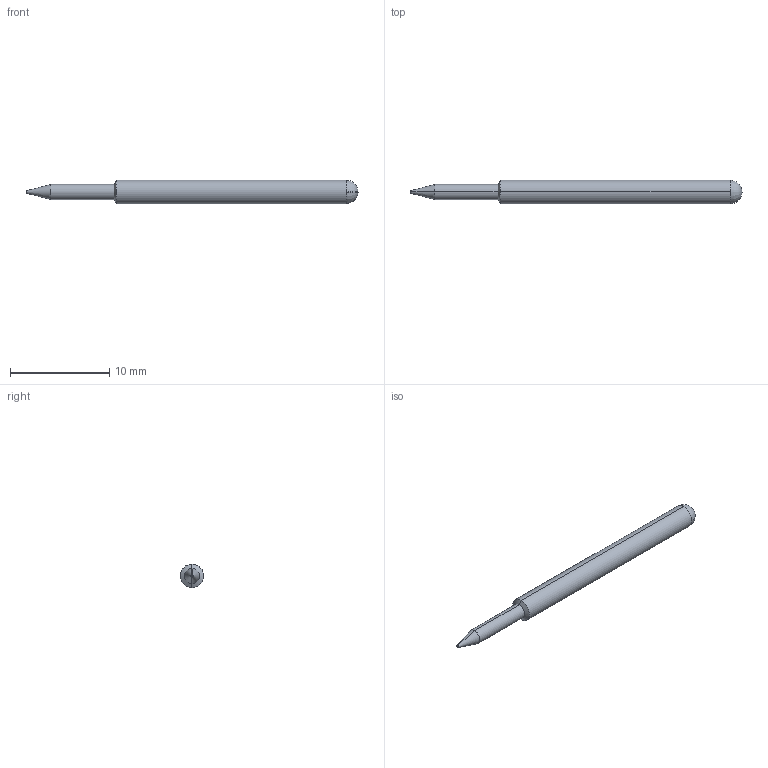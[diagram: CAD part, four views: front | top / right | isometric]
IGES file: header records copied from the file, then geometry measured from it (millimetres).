
Start section: SolidWorks IGES file using analytic representation for surfaces
Global section: file name: Z:\probe solid model mockups\Solidworks models\IGES Files\HCP-14 IGES files\HCP-14B.IGS; native system: SolidWorks 2006 by SolidWorks Corporation; preprocessor: SolidWorks 2006 by SolidWorks Corporation; author: tsakatani; date: 071202.143521; units: inch
Bounding box: 33.53 x 2.36 x 2.36 mm (x, y, z)
Surface area: 221.6 mm2 (no closed solid volume)
Topology: 0 solids, 0 shells, 12 faces, 56 edges, 52 vertices
Faces by surface type: revolution 12
